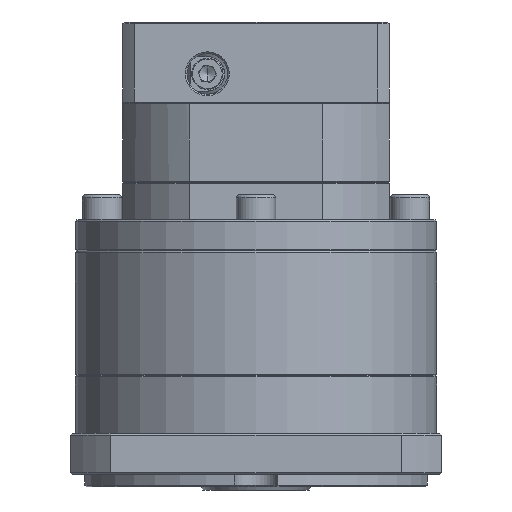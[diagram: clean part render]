
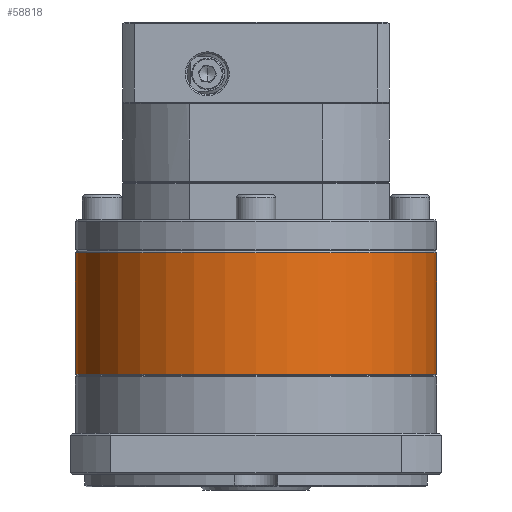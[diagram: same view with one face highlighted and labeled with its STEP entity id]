
A CAD part, front view. The second image highlights one B-rep face of the part: STEP entity #58818.
In plain terms, the highlighted cylindrical face has radius 57.5 mm (diameter 115 mm), a partial arc.
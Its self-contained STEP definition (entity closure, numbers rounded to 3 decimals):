
#569 = LINE ( 'NONE', #12476, #119698 ) ;
#1429 = ORIENTED_EDGE ( 'NONE', *, *, #103341, .T. ) ;
#6046 = DIRECTION ( 'NONE',  ( 0., 0., -1. ) ) ;
#10253 = AXIS2_PLACEMENT_3D ( 'NONE', #101991, #34168, #101131 ) ;
#12476 = CARTESIAN_POINT ( 'NONE',  ( -76.655, -9.944, 200.002 ) ) ;
#15664 = CARTESIAN_POINT ( 'NONE',  ( -76.655, -9.944, 199.502 ) ) ;
#20698 = CARTESIAN_POINT ( 'NONE',  ( 38.345, -9.944, 199.502 ) ) ;
#21372 = DIRECTION ( 'NONE',  ( 0., 0., -1. ) ) ;
#24957 = DIRECTION ( 'NONE',  ( 0., 0., -1. ) ) ;
#34168 = DIRECTION ( 'NONE',  ( 0., 0., 1. ) ) ;
#34904 = CIRCLE ( 'NONE', #78904, 57.5 ) ;
#40971 = VERTEX_POINT ( 'NONE', #20698 ) ;
#48905 = CARTESIAN_POINT ( 'NONE',  ( 38.345, -9.944, 200.002 ) ) ;
#50072 = ORIENTED_EDGE ( 'NONE', *, *, #60907, .T. ) ;
#54419 = CARTESIAN_POINT ( 'NONE',  ( -19.155, -9.944, 199.502 ) ) ;
#58818 = ADVANCED_FACE ( 'NONE', ( #106191 ), #113676, .T. ) ;
#58957 = LINE ( 'NONE', #48905, #83187 ) ;
#59249 = VERTEX_POINT ( 'NONE', #82260 ) ;
#59816 = CIRCLE ( 'NONE', #10253, 57.5 ) ;
#60907 = EDGE_CURVE ( 'NONE', #67665, #82085, #569, .T. ) ;
#63003 = ORIENTED_EDGE ( 'NONE', *, *, #83486, .T. ) ;
#67665 = VERTEX_POINT ( 'NONE', #15664 ) ;
#71520 = EDGE_LOOP ( 'NONE', ( #124446, #1429, #50072, #63003 ) ) ;
#76955 = AXIS2_PLACEMENT_3D ( 'NONE', #102985, #6046, #112680 ) ;
#78904 = AXIS2_PLACEMENT_3D ( 'NONE', #54419, #24957, #111349 ) ;
#82085 = VERTEX_POINT ( 'NONE', #108341 ) ;
#82260 = CARTESIAN_POINT ( 'NONE',  ( 38.345, -9.944, 160.791 ) ) ;
#83187 = VECTOR ( 'NONE', #88011, 1000. ) ;
#83486 = EDGE_CURVE ( 'NONE', #82085, #59249, #59816, .T. ) ;
#88011 = DIRECTION ( 'NONE',  ( 0., 0., -1. ) ) ;
#101131 = DIRECTION ( 'NONE',  ( -1., 0., 0. ) ) ;
#101991 = CARTESIAN_POINT ( 'NONE',  ( -19.155, -9.944, 160.791 ) ) ;
#102985 = CARTESIAN_POINT ( 'NONE',  ( -19.155, -9.944, 200.002 ) ) ;
#103341 = EDGE_CURVE ( 'NONE', #40971, #67665, #34904, .T. ) ;
#106191 = FACE_OUTER_BOUND ( 'NONE', #71520, .T. ) ;
#108341 = CARTESIAN_POINT ( 'NONE',  ( -76.655, -9.944, 160.791 ) ) ;
#111349 = DIRECTION ( 'NONE',  ( -1., 0., 0. ) ) ;
#112214 = EDGE_CURVE ( 'NONE', #40971, #59249, #58957, .T. ) ;
#112680 = DIRECTION ( 'NONE',  ( -1., 0., 0. ) ) ;
#113676 = CYLINDRICAL_SURFACE ( 'NONE', #76955, 57.5 ) ;
#119698 = VECTOR ( 'NONE', #21372, 1000. ) ;
#124446 = ORIENTED_EDGE ( 'NONE', *, *, #112214, .F. ) ;
